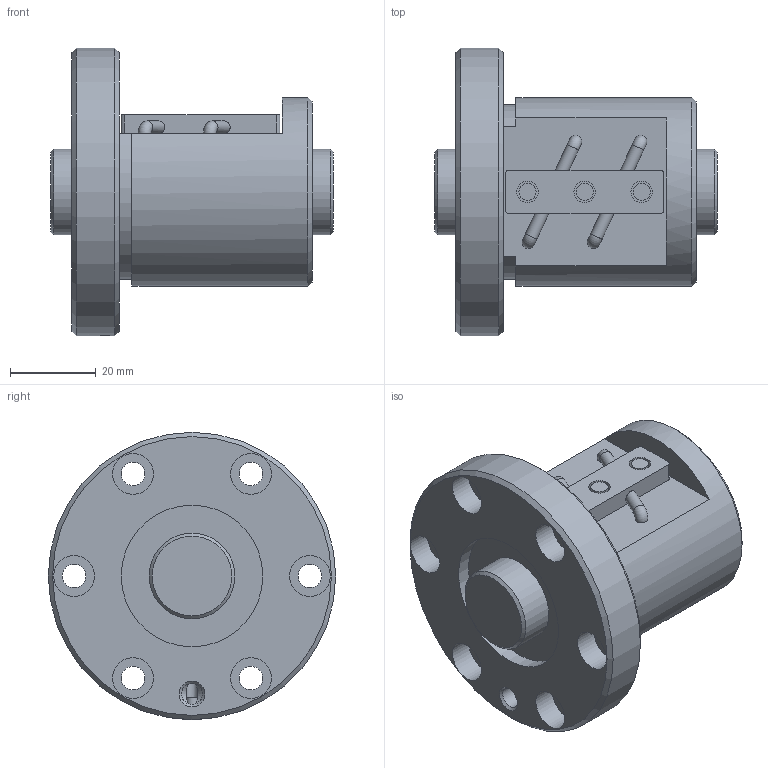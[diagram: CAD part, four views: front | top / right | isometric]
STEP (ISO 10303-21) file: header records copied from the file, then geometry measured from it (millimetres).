
FILE_DESCRIPTION(/* description */ ('STEP AP203'),/* implementation_level */ '2;1');
FILE_NAME(/* name */ 'BNF2005V-5RRG1+66LC0_000_rev',/* time_stamp */ '2024-08-06T07:28:19+02:00',/* author */ ('License CC BY-ND 4.0'),/* organization */ ('CADENAS'),/* preprocessor_version */ 'ST-DEVELOPER v19.3',/* originating_system */ 'PARTsolutions',/* authorisation */ ' ');
FILE_SCHEMA (('CONFIG_CONTROL_DESIGN'));
Length unit declared in the file: millimetre
Products named in the file (3): BNF2005V-5RRG1+66LC0_000_rev; BNF 2005-5RR000 Shaft; BNF 2005-5RR Nut
Assembly tree (2 placements, depth 2):
  BNF2005V-5RRG1+66LC0_000_rev
    BNF 2005-5RR000 Shaft
    BNF 2005-5RR Nut
Bounding box: 66 x 67 x 67 mm (x, y, z)
Volume: 96804.2 mm3; surface area: 25978.9 mm2
Topology: 2 solids, 2 shells, 78 faces, 172 edges, 113 vertices
Faces by surface type: cylinder 37, plane 29, cone 8, torus 4
Full cylindrical faces by diameter (mm): 2.75 x2, 2.931 x4, 4 x3, 4.917 x1, 5 x3, 5.5 x6, 9.5 x6, 20 x2, 33 x2, 44 x1, 67 x1
Entity records: 1991 total; most frequent: DIRECTION 352, CARTESIAN_POINT 341, ORIENTED_EDGE 230, AXIS2_PLACEMENT_3D 164, EDGE_LOOP 160, FACE_BOUND 160, EDGE_CURVE 115, VERTEX_POINT 99
